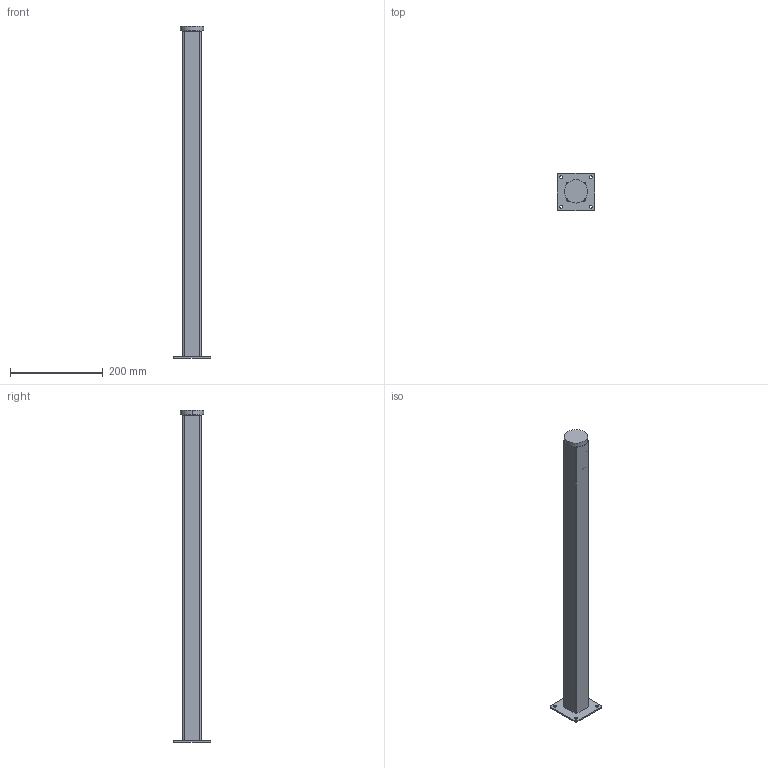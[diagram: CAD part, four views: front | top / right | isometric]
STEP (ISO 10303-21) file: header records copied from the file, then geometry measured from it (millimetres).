
FILE_DESCRIPTION (( 'STEP AP203' ), '1' );
FILE_NAME ('MILADESIGN stolová noha G5 ST402_217700 a 219325 a 218832 a 219831_3D.STEP', '2022-02-15T13:12:15', ( '' ), ( '' ), 'SwSTEP 2.0', 'SolidWorks 2019', '' );
FILE_SCHEMA (( 'CONFIG_CONTROL_DESIGN' ));
Length unit declared in the file: millimetre
Products named in the file (1): MILADESIGN stolová noha G5 ST402_217700 a 219325 a 218832 a 219831_3D
Bounding box: 80 x 80 x 715 mm (x, y, z)
Volume: 279183.5 mm3; surface area: 241804.8 mm2
Topology: 3 solids, 3 shells, 53 faces, 132 edges, 88 vertices
Faces by surface type: plane 29, cylinder 24
Entity records: 1683 total; most frequent: DIRECTION 288, CARTESIAN_POINT 274, ORIENTED_EDGE 264, EDGE_CURVE 132, AXIS2_PLACEMENT_3D 102, VERTEX_POINT 88, VECTOR 84, LINE 84
